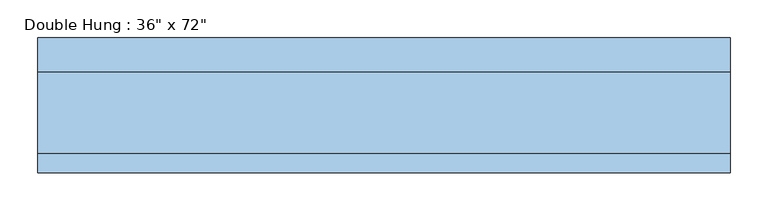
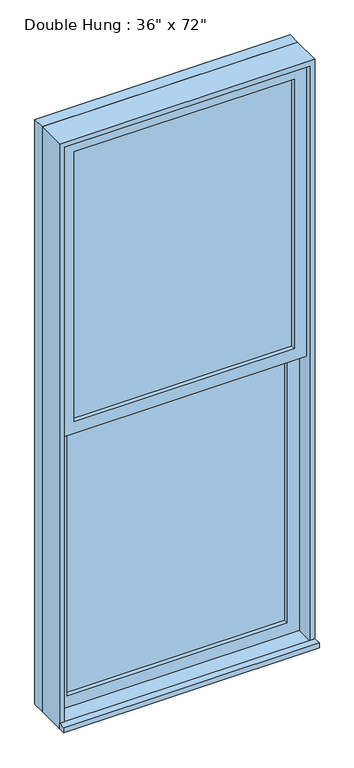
"""IFC4 building model written with IfcOpenShell, lengths in millimetres: window geometry."""

from ifc_helpers import new_model, si_unit, frame, origin, place, context, project, spatial, polyline, outline, extrude, source, transform, mapped, element, save


def window_e812f40b(model_context):
    return source(origin(), model_context, "Body", "SweptSolid", [
        extrude(outline(polyline([(-393.7, 3.175), (-393.7, 15.875), (393.7, 15.875), (393.7, 3.175), (-393.7, 3.175)])), frame((0.0, 0.0, 368.3), z_axis=(0.0, 0.0, 1.0), x_axis=(1.0, 0.0, 0.0)), (0.0, 0.0, 1.0), 1019.175),
        extrude(outline(polyline([(1431.925, -438.15), (323.85, -438.15), (323.85, 438.15), (1431.925, 438.15), (1431.925, -438.15)]), holes=[polyline([(1387.475, -393.7), (1387.475, 393.7), (368.3, 393.7), (368.3, -393.7), (1387.475, -393.7)])]), frame((0.0, -12.7, 0.0), z_axis=(0.0, 1.0, 0.0), x_axis=(0.0, 0.0, 1.0)), (0.0, 0.0, 1.0), 44.45),
        extrude(outline(polyline([(-457.2, -101.6), (-457.2, -76.2), (457.2, -76.2), (457.2, -101.6), (-457.2, -101.6)])), frame((0.0, 0.0, 304.8), z_axis=(0.0, 0.0, 1.0), x_axis=(1.0, 0.0, 0.0)), (0.0, 0.0, 1.0), 19.05),
        extrude(outline(polyline([(393.7, -28.575), (393.7, -41.275), (-393.7, -41.275), (-393.7, -28.575), (393.7, -28.575)])), frame((0.0, 0.0, 1431.925), z_axis=(0.0, 0.0, 1.0), x_axis=(1.0, 0.0, 0.0)), (0.0, 0.0, 1.0), 1019.175),
        extrude(outline(polyline([(2495.55, -438.15), (1387.475, -438.15), (1387.475, 438.15), (2495.55, 438.15), (2495.55, -438.15)]), holes=[polyline([(2451.1, -393.7), (2451.1, 393.7), (1431.925, 393.7), (1431.925, -393.7), (2451.1, -393.7)])]), frame((0.0, -57.15, 0.0), z_axis=(0.0, 1.0, 0.0), x_axis=(0.0, 0.0, 1.0)), (0.0, 0.0, 1.0), 44.45),
        extrude(outline(polyline([(2514.6, -457.2), (304.8, -457.2), (304.8, 457.2), (2514.6, 457.2), (2514.6, -457.2)]), holes=[polyline([(2482.85, -425.45), (2482.85, 425.45), (336.55, 425.45), (336.55, -425.45), (2482.85, -425.45)])]), frame((0.0, 31.75, 0.0), z_axis=(0.0, 1.0, 0.0), x_axis=(0.0, 0.0, 1.0)), (0.0, 0.0, 1.0), 44.45),
        extrude(outline(polyline([(2514.6, 457.2), (2514.6, -457.2), (304.8, -457.2), (304.8, 457.2), (2514.6, 457.2)]), holes=[polyline([(2495.55, 438.15), (323.85, 438.15), (323.85, -438.15), (2495.55, -438.15), (2495.55, 438.15)])]), frame((0.0, -76.2, 0.0), z_axis=(0.0, 1.0, 0.0), x_axis=(0.0, 0.0, 1.0)), (0.0, 0.0, 1.0), 107.95),
    ])


if __name__ == "__main__":
    model = new_model("IFC4")
    model_context = context("Model", 3, world=origin())
    ifc_project = project(units=[si_unit("LENGTHUNIT", "METRE", prefix="MILLI")], contexts=[model_context])
    site = spatial("IfcSite", under=ifc_project)
    building = spatial("IfcBuilding", under=site)
    placement = place(None, origin())
    window_shape = window_e812f40b(model_context)
    element("IfcWindow", 1, ObjectType="Double Hung : 36\" x 72\"", at=placement, inside=building, context=model_context, shape_type="MappedRepresentation", body=[
        mapped(window_shape, transform((0.0, 0.0, 0.0), x_axis=(1.0, 0.0, 0.0), y_axis=(0.0, 1.0, 0.0), z_axis=(0.0, 0.0, 1.0))),
    ])
    save(model, "model.ifc")
